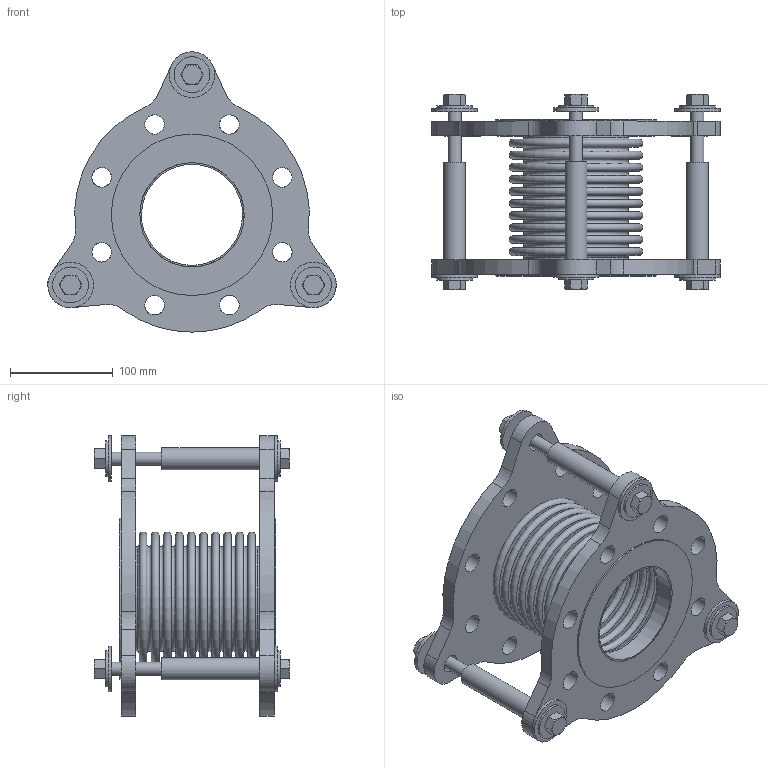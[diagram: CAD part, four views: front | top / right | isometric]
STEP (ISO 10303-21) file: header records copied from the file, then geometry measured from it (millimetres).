
FILE_DESCRIPTION(/* description */ (''),/* implementation_level */ '2;1');
FILE_NAME(/* name */ 'C:\001_Work\Designs\RFB\RFB-4x6.stp',/* time_stamp */ '2016-04-29T08:34:15-04:00',/* author */ ('rramoutar'),/* organization */ ('Mason Industries Inc.'),/* preprocessor_version */ 'ST-DEVELOPER v15.6',/* originating_system */ 'Autodesk Inventor 2015',/* authorisation */ '');
FILE_SCHEMA (('CONFIG_CONTROL_DESIGN'));
Length unit declared in the file: inch
Products named in the file (1): 4in_RFB_150FLANGE
Bounding box: 280.92 x 190.51 x 273.05 mm (x, y, z)
Volume: 1473809.1 mm3; surface area: 575019.5 mm2
Topology: 24 solids, 24 shells, 336 faces, 693 edges, 450 vertices
Faces by surface type: plane 141, cylinder 90, cone 63, torus 42
Full cylindrical faces by diameter (mm): 10.592 x3, 12.7 x9, 14.287 x6, 15.799 x3, 17.462 x6, 19.05 x16, 21.336 x3, 34.925 x6, 44.45 x6, 98.425 x2, 101.6 x4, 157.162 x2
Entity records: 8554 total; most frequent: CARTESIAN_POINT 1517, DIRECTION 1434, ORIENTED_EDGE 1090, AXIS2_PLACEMENT_3D 660, EDGE_LOOP 584, EDGE_CURVE 545, VERTEX_POINT 419, STYLED_ITEM 360
